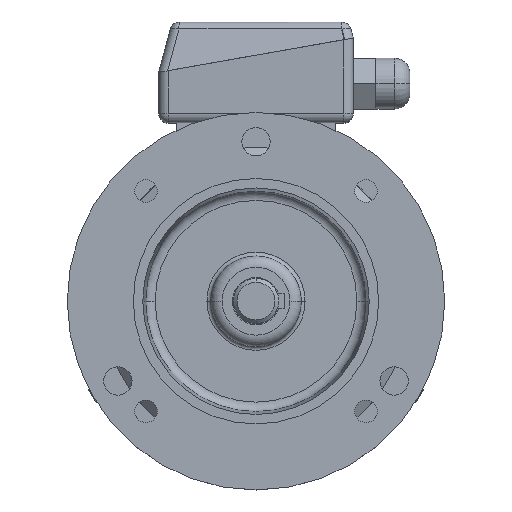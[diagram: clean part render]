
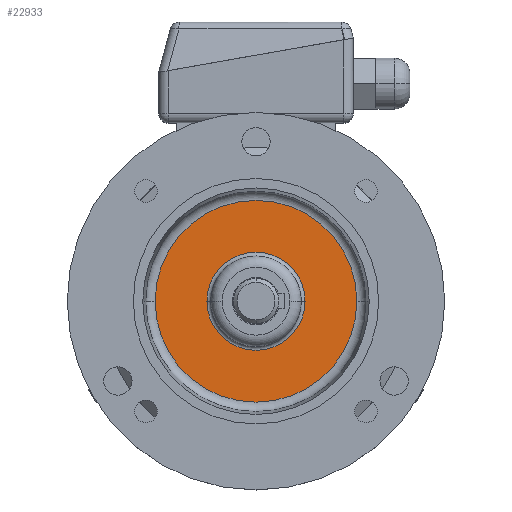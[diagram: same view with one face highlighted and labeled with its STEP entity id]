
A CAD part, top view. The second image highlights one B-rep face of the part: STEP entity #22933.
In plain terms, the highlighted planar face has unit normal (0, 0, 1).
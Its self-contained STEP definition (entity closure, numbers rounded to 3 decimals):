
#176 = EDGE_CURVE ( 'NONE', #5303, #6652, #20383, .T. ) ;
#17099 = CARTESIAN_POINT ( 'NONE',  ( -26., 0., 21. ) ) ;
#17499 = CARTESIAN_POINT ( 'NONE',  ( 26., 0., 21. ) ) ;
#17801 = CIRCLE ( 'NONE', #17802, 26. ) ;
#17802 = AXIS2_PLACEMENT_3D ( 'NONE', #17803, #17804, #17805 ) ;
#17803 = CARTESIAN_POINT ( 'NONE',  ( 0., 0., 21. ) ) ;
#17804 = DIRECTION ( 'NONE',  ( 0., 0., -1. ) ) ;
#17805 = DIRECTION ( 'NONE',  ( -1., 0., 0. ) ) ;
#2391 = CARTESIAN_POINT ( 'NONE',  ( -53.45, 0., 21. ) ) ;
#18885 = CIRCLE ( 'NONE', #18886, 26. ) ;
#18886 = AXIS2_PLACEMENT_3D ( 'NONE', #18887, #18888, #18889 ) ;
#18887 = CARTESIAN_POINT ( 'NONE',  ( 0., 0., 21. ) ) ;
#18888 = DIRECTION ( 'NONE',  ( 0., 0., -1. ) ) ;
#18889 = DIRECTION ( 'NONE',  ( -1., 0., 0. ) ) ;
#2662 = CIRCLE ( 'NONE', #2663, 53.45 ) ;
#2663 = AXIS2_PLACEMENT_3D ( 'NONE', #2664, #2665, #2666 ) ;
#2664 = CARTESIAN_POINT ( 'NONE',  ( 0., 0., 21. ) ) ;
#2665 = DIRECTION ( 'NONE',  ( 0., 0., -1. ) ) ;
#2666 = DIRECTION ( 'NONE',  ( -1., 0., 0. ) ) ;
#19493 = VERTEX_POINT ( 'NONE', #17099 ) ;
#19770 = VERTEX_POINT ( 'NONE', #17499 ) ;
#20066 = EDGE_CURVE ( 'NONE', #19770, #19493, #17801, .T. ) ;
#20094 = FACE_BOUND ( 'NONE', #22651, .T. ) ;
#20095 = FACE_OUTER_BOUND ( 'NONE', #8880, .T. ) ;
#20096 = PLANE ( 'NONE',  #20097 ) ;
#20097 = AXIS2_PLACEMENT_3D ( 'NONE', #20098, #20099, #20100 ) ;
#20098 = CARTESIAN_POINT ( 'NONE',  ( -53.45, 0., 21. ) ) ;
#20099 = DIRECTION ( 'NONE',  ( 0., 0., 1. ) ) ;
#20100 = DIRECTION ( 'NONE',  ( 1., 0., 0. ) ) ;
#3952 = CARTESIAN_POINT ( 'NONE',  ( 53.45, 0., 21. ) ) ;
#20383 = CIRCLE ( 'NONE', #20384, 53.45 ) ;
#20384 = AXIS2_PLACEMENT_3D ( 'NONE', #20385, #20386, #20387 ) ;
#20385 = CARTESIAN_POINT ( 'NONE',  ( 0., 0., 21. ) ) ;
#20386 = DIRECTION ( 'NONE',  ( 0., 0., -1. ) ) ;
#20387 = DIRECTION ( 'NONE',  ( -1., 0., 0. ) ) ;
#21606 = EDGE_CURVE ( 'NONE', #19493, #19770, #18885, .T. ) ;
#5303 = VERTEX_POINT ( 'NONE', #2391 ) ;
#5569 = EDGE_CURVE ( 'NONE', #6652, #5303, #2662, .T. ) ;
#22042 = ORIENTED_EDGE ( 'NONE', *, *, #21606, .T. ) ;
#22651 = EDGE_LOOP ( 'NONE', ( #22042, #9169 ) ) ;
#22933 = ADVANCED_FACE ( 'NONE', ( #20094, #20095 ), #20096, .T. ) ;
#6652 = VERTEX_POINT ( 'NONE', #3952 ) ;
#7621 = ORIENTED_EDGE ( 'NONE', *, *, #5569, .F. ) ;
#8254 = ORIENTED_EDGE ( 'NONE', *, *, #176, .F. ) ;
#8880 = EDGE_LOOP ( 'NONE', ( #8254, #7621 ) ) ;
#9169 = ORIENTED_EDGE ( 'NONE', *, *, #20066, .T. ) ;
